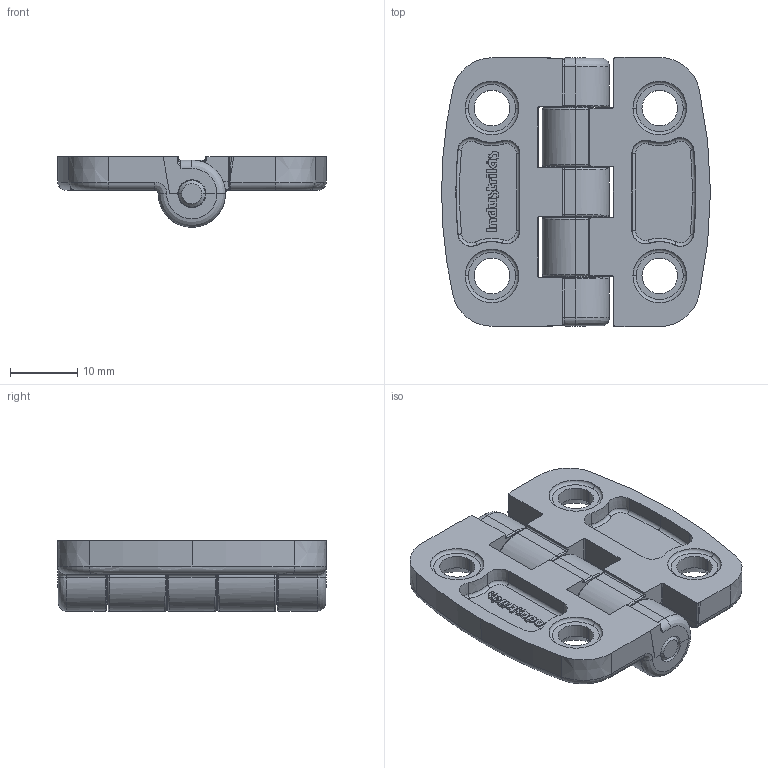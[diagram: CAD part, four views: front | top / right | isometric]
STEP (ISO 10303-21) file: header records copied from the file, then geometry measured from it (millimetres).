
FILE_DESCRIPTION (( 'STEP AP214' ), '1' );
FILE_NAME ('3216-600404-30_Industrilas.step', '2025-05-21T20:13:55', ( '' ), ( '' ), 'SwSTEP 2.0', 'SolidWorks 2010', '' );
FILE_SCHEMA (( 'AUTOMOTIVE_DESIGN' ));
Length unit declared in the file: millimetre
Products named in the file (4): 00020433; 00020432; 00020431(40x40); 3216-600404-30_Industrilas
Assembly tree (3 placements, depth 2):
  3216-600404-30_Industrilas
    00020431(40x40)
    00020432
    00020433
Bounding box: 40.04 x 40.09 x 10.5 mm (x, y, z)
Volume: 7211.7 mm3; surface area: 6100.2 mm2
Topology: 3 solids, 3 shells, 523 faces, 1320 edges, 807 vertices
Faces by surface type: plane 257, bspline 105, cylinder 93, cone 39, torus 29
Entity records: 17206 total; most frequent: CARTESIAN_POINT 5477, ORIENTED_EDGE 2636, DIRECTION 2179, EDGE_CURVE 1318, VERTEX_POINT 807, AXIS2_PLACEMENT_3D 733, VECTOR 713, LINE 713
